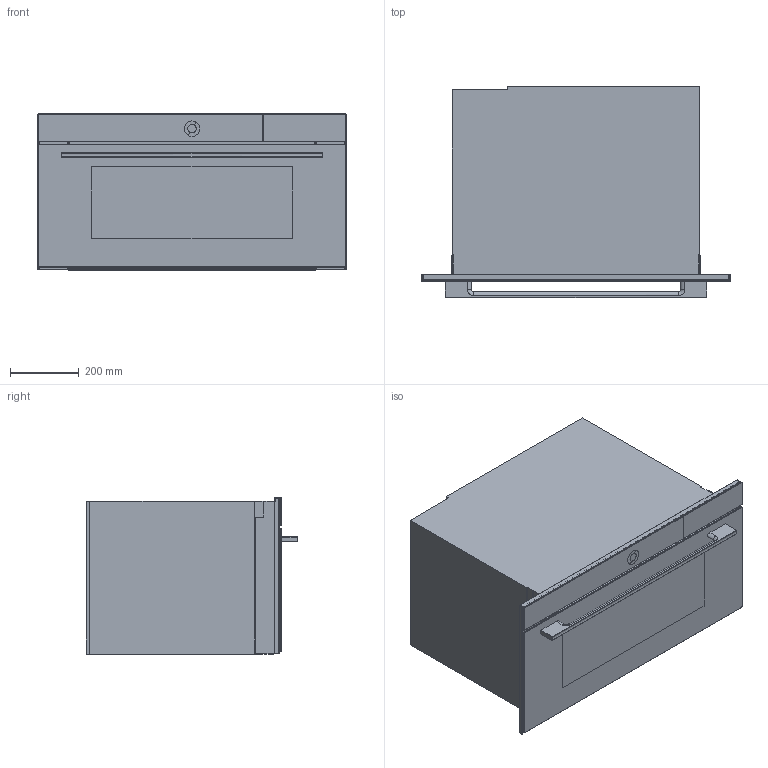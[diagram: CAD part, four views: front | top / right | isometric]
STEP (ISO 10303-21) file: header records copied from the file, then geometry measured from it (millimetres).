
FILE_DESCRIPTION(/* description */ (''),/* implementation_level */ '2;1');
FILE_NAME(/* name */ 'X2303400004-A',/* time_stamp */ '2022-11-09T08:12:17+01:00',/* author */ (''),/* organization */ (''),/* preprocessor_version */ 'ST-DEVELOPER v16.5',/* originating_system */ 'Rhino 7.23',/* authorisation */ '');
FILE_SCHEMA (('AUTOMOTIVE_DESIGN'));
Length unit declared in the file: millimetre
Products named in the file (1): Document
Bounding box: 897 x 614.86 x 454.05 mm (x, y, z)
Volume: 171893837.8 mm3; surface area: 4360772.7 mm2
Topology: 14 solids, 14 shells, 342 faces, 830 edges, 501 vertices
Faces by surface type: plane 190, cylinder 91, bspline 61
Entity records: 12034 total; most frequent: CARTESIAN_POINT 6444, ORIENTED_EDGE 1628, EDGE_CURVE 814, B_SPLINE_CURVE_WITH_KNOTS 582, VERTEX_POINT 501, EDGE_LOOP 349, ADVANCED_FACE 342, FACE_OUTER_BOUND 342
